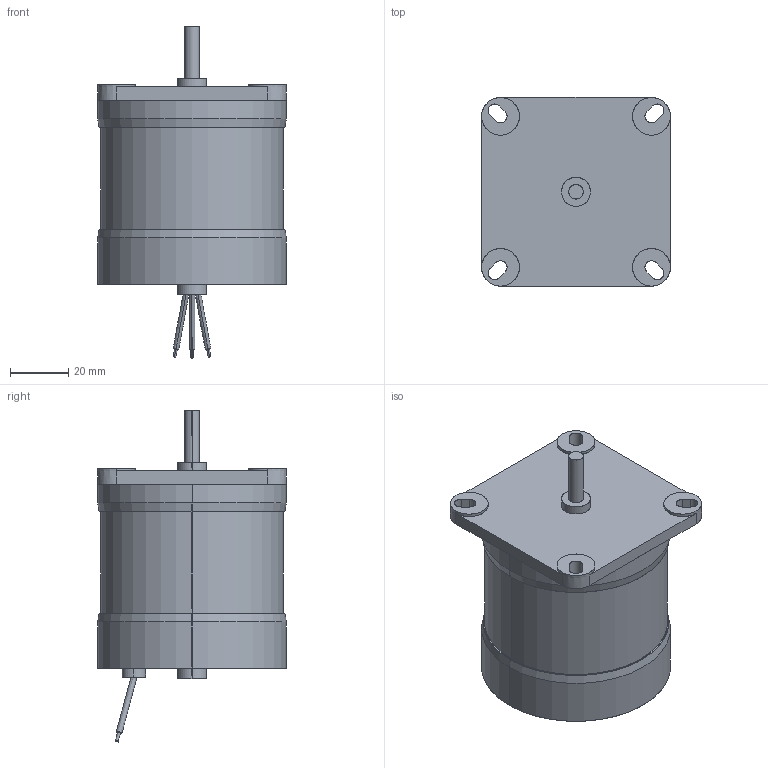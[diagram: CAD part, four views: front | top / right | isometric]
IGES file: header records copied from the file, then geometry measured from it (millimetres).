
Start section: SolidWorks IGES file using analytic representation for surfaces
Global section: file name: \\Uranus\R&D\plans\CATALOGUES\Topstock_Piece_IGES\ASM44.IGS; native system: SolidWorks 2008; preprocessor: SolidWorks 2008; author: JUL; date: 090326.114512; units: millimetre
Bounding box: 65 x 65 x 114.35 mm (x, y, z)
Surface area: 23920.7 mm2 (no closed solid volume)
Topology: 0 solids, 0 shells, 91 faces, 1872 edges, 1870 vertices
Faces by surface type: revolution 56, bspline 35
